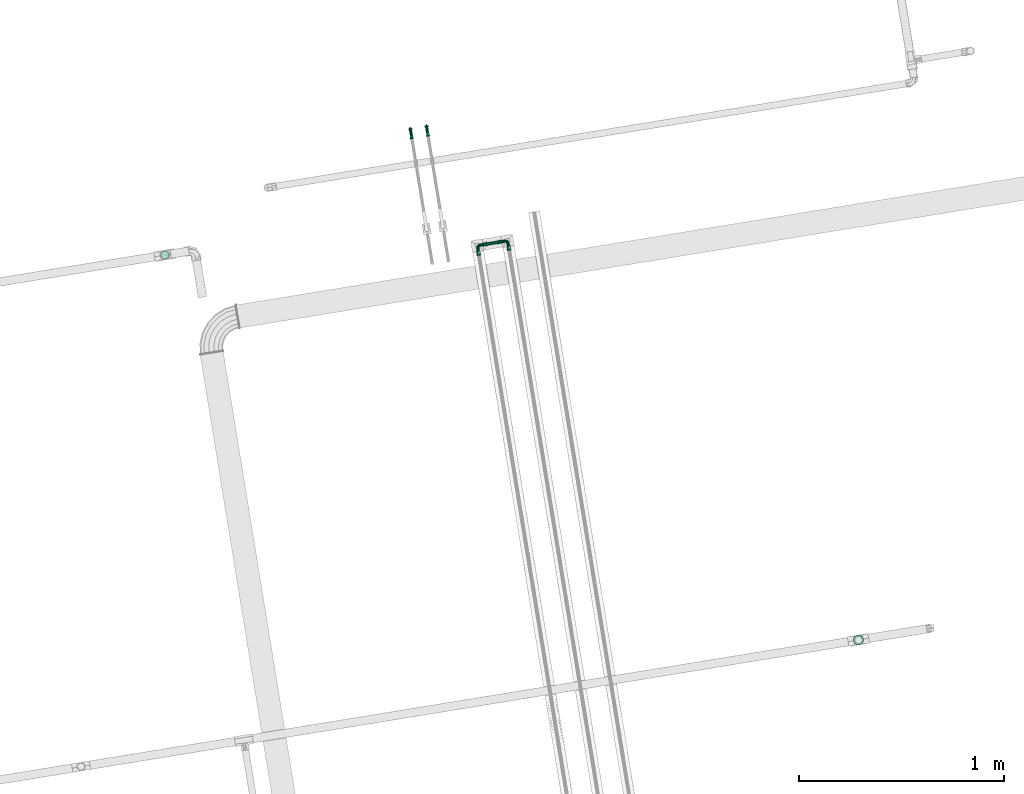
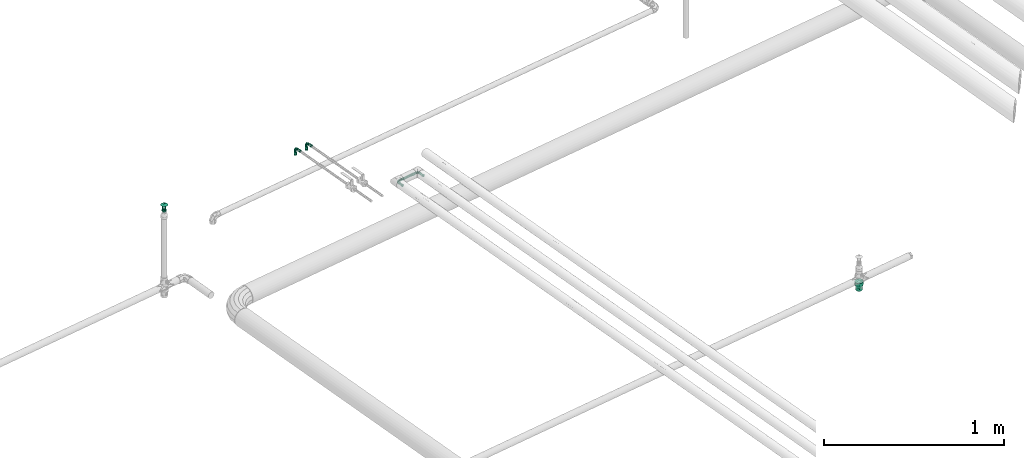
# One storey, part 38 of 46: 5 flow fittings, 1 flow segment, 1 flow terminal.
"""IFC2X3 building model written with IfcOpenShell, lengths in millimetres."""

import ifcopenshell
import ifcopenshell.guid

model = None  # the IFC model being written
_history = None  # IfcOwnerHistory: only IFC2X3 demands one
_inside = {}  # id of a spatial element -> (the spatial element, [elements in it])
_under = {}  # id of a project, library or spatial element -> (it, [spatial elements below it])
_declared = {}  # id of a project -> (the project, [libraries it declares])
_typed = {}  # id of a type object -> (the type object, [elements of that type])
_made_of = {}  # id of a material, layer set ... -> (it, [elements and type objects made of it])


def new_model(schema):
    """Start an empty IFC model of exactly this schema.

    Asked for "IFC4X3", IfcOpenShell would pick the latest addendum, in which some entities
    have other attributes; the version numbers below select the first issue.
    IFC2X3 requires an IfcOwnerHistory on every rooted entity: one is made here for all.
    """
    global model, _history
    if schema == "IFC4X3":
        model = ifcopenshell.file(schema_version=(4, 3, 0, 0))
    else:
        model = ifcopenshell.file(schema=schema)
    _inside.clear()
    _under.clear()
    _declared.clear()
    _typed.clear()
    _made_of.clear()
    _history = None
    if model.schema == "IFC2X3":
        org = make("IfcOrganization", Name="unknown")
        user = make(
            "IfcPersonAndOrganization",
            ThePerson=make("IfcPerson", FamilyName="unknown"),
            TheOrganization=org,
        )
        app = make(
            "IfcApplication",
            ApplicationDeveloper=org,
            Version="unknown",
            ApplicationFullName="unknown",
            ApplicationIdentifier="unknown",
        )
        _history = make(
            "IfcOwnerHistory",
            OwningUser=user,
            OwningApplication=app,
            ChangeAction="ADDED",
            CreationDate=0,
        )
    return model


def make(cls, **values):
    """One entity of the class cls with the attributes given. An attribute that is None is left unset."""
    return model.create_entity(
        cls, **{name: value for name, value in values.items() if value is not None}
    )


def entity(cls, *values):
    """Any entity or typed value of the class cls, its attributes in the order of the schema. None: left unset."""
    e = model.create_entity(cls)
    for i, value in enumerate(values):
        if value is not None:
            e[i] = value
    return e


def rooted(cls, **values):
    """An entity with a GlobalId (a new one), such as an element, a storey or a relation."""
    return make(cls, GlobalId=ifcopenshell.guid.new(), OwnerHistory=_history, **values)


def si_unit(unit_type, name, prefix=None):
    """IfcSIUnit, for example si_unit("LENGTHUNIT", "METRE", prefix="MILLI")."""
    return make("IfcSIUnit", UnitType=unit_type, Prefix=prefix, Name=name)


def converted_unit(unit_type, name, factor, base, dimensions=None, offset=None):
    """IfcConversionBasedUnit, such as the inch: factor (a typed value) times the base unit."""
    return make(
        "IfcConversionBasedUnit"
        if offset is None
        else "IfcConversionBasedUnitWithOffset",
        ConversionOffset=offset,
        Dimensions=None
        if dimensions is None
        else entity("IfcDimensionalExponents", *dimensions),
        UnitType=unit_type,
        Name=name,
        ConversionFactor=make(
            "IfcMeasureWithUnit", ValueComponent=factor, UnitComponent=base
        ),
    )


def derived_unit(unit_type, elements):
    """IfcDerivedUnit: a product of units, each with its exponent."""
    return make(
        "IfcDerivedUnit",
        Elements=[
            make("IfcDerivedUnitElement", Unit=unit, Exponent=power)
            for unit, power in elements
        ],
        UnitType=unit_type,
    )


def assignment(units):
    """IfcUnitAssignment: the units of a project."""
    return None if units is None else make("IfcUnitAssignment", Units=units)


def point(xyz):
    """IfcCartesianPoint."""
    return None if xyz is None else make("IfcCartesianPoint", Coordinates=xyz)


def direction(xyz):
    """IfcDirection."""
    return None if xyz is None else make("IfcDirection", DirectionRatios=xyz)


def frame(location, z_axis=None, x_axis=None):
    """IfcAxis2Placement3D, a coordinate frame: its origin and axes. An axis left out is left unset."""
    return make(
        "IfcAxis2Placement3D",
        Location=point(location),
        Axis=direction(z_axis),
        RefDirection=direction(x_axis),
    )


def frame_2d(location, x_axis=None):
    """IfcAxis2Placement2D, a coordinate frame in the plane: its origin and x axis."""
    return make(
        "IfcAxis2Placement2D", Location=point(location), RefDirection=direction(x_axis)
    )


def origin():
    """The frame at (0, 0, 0) with its axes left unset."""
    return frame((0.0, 0.0, 0.0))


def origin_with_axes():
    """The frame at (0, 0, 0) with the z axis (0, 0, 1) and the x axis (1, 0, 0) written out."""
    return frame((0.0, 0.0, 0.0), z_axis=(0.0, 0.0, 1.0), x_axis=(1.0, 0.0, 0.0))


def place(relative_to, where):
    """IfcLocalPlacement: puts the frame where relative to a parent placement (None: the world)."""
    return make(
        "IfcLocalPlacement", PlacementRelTo=relative_to, RelativePlacement=where
    )


def context(
    kind, dimensions, precision=None, world=None, true_north=None, identifier=None
):
    """IfcGeometricRepresentationContext, for example the 3D "Model" context."""
    return make(
        "IfcGeometricRepresentationContext",
        ContextIdentifier=identifier,
        ContextType=kind,
        CoordinateSpaceDimension=dimensions,
        Precision=precision,
        WorldCoordinateSystem=world,
        TrueNorth=true_north,
    )


def subcontext(parent, identifier, kind, view, scale=None):
    """IfcGeometricRepresentationSubContext, for example "Body" below "Model"."""
    return make(
        "IfcGeometricRepresentationSubContext",
        ContextIdentifier=identifier,
        ContextType=kind,
        ParentContext=parent,
        TargetScale=scale,
        TargetView=view,
    )


def project(units=None, contexts=None):
    """IfcProject with its units and contexts."""
    return rooted(
        "IfcProject",
        Name="project",
        RepresentationContexts=contexts,
        UnitsInContext=assignment(units),
    )


def spatial(cls, under=None, at=None, **own):
    """A site, building, storey or space (cls), placed at a placement, below another one or the project."""
    s = rooted(cls, ObjectPlacement=at, **own)
    if under is not None:
        _under.setdefault(under.id(), (under, []))[1].append(s)
    return s


def profile(cls, at=None, kind="AREA", **sizes):
    """A parametric profile (cls). Its sizes go by their IFC names, for example OverallWidth=200.0."""
    return make(cls, ProfileType=kind, Position=at, **sizes)


def circle(**sizes):
    """IfcCircleProfileDef."""
    return profile("IfcCircleProfileDef", **sizes)


def extrude(swept, where, along, depth):
    """IfcExtrudedAreaSolid: the profile swept, set in the frame where, extruded along a direction by depth."""
    return make(
        "IfcExtrudedAreaSolid",
        SweptArea=swept,
        Position=where,
        ExtrudedDirection=direction(along),
        Depth=depth,
    )


def faces_of(points, faces, orient=None, outer=None):
    """IfcFace entities. A face is a list of loops; a loop is a list of indices into points, from 0.

    orient and outer hold one flag for each loop. By default every Orientation is true, the
    first loop of a face is its IfcFaceOuterBound and the others are IfcFaceBound.
    """
    made = []
    for i, loops in enumerate(faces):
        bounds = []
        for j, loop in enumerate(loops):
            is_outer = j == 0 if outer is None else outer[i][j]
            bounds.append(
                make(
                    "IfcFaceOuterBound" if is_outer else "IfcFaceBound",
                    Bound=make("IfcPolyLoop", Polygon=[points[k] for k in loop]),
                    Orientation=True if orient is None else orient[i][j],
                )
            )
        made.append(make("IfcFace", Bounds=bounds))
    return made


def faceted_brep(points, faces, orient=None, outer=None, voids=None):
    """IfcFacetedBrep: a solid bounded by flat faces; with voids (closed shells), ...WithVoids."""
    shared = [point(p) for p in points]
    hull = make("IfcClosedShell", CfsFaces=faces_of(shared, faces, orient, outer))
    if voids is None:
        return make("IfcFacetedBrep", Outer=hull)
    return make(
        "IfcFacetedBrepWithVoids",
        Outer=hull,
        Voids=[
            make(cls, CfsFaces=faces_of(shared, fs, o, b)) for cls, fs, o, b in voids
        ],
    )


def shape(context_of_items, identifier, shape_type, items):
    """IfcShapeRepresentation: the items that make up one representation, for example the "Body"."""
    return make(
        "IfcShapeRepresentation",
        ContextOfItems=context_of_items,
        RepresentationIdentifier=identifier,
        RepresentationType=shape_type,
        Items=items,
    )


def source(mapping_origin, context_of_items, identifier, shape_type, items):
    """IfcRepresentationMap: a shape defined once, which mapped items show again and again."""
    return make(
        "IfcRepresentationMap",
        MappingOrigin=mapping_origin,
        MappedRepresentation=shape(context_of_items, identifier, shape_type, items),
    )


def transform(
    local_origin,
    x_axis=None,
    y_axis=None,
    z_axis=None,
    scale=None,
    scale2=None,
    scale3=None,
    uniform=True,
):
    """IfcCartesianTransformationOperator3D, or its non-uniform kind. x_axis, y_axis, z_axis: its Axis1, 2, 3."""
    if uniform:
        return make(
            "IfcCartesianTransformationOperator3D",
            Axis1=direction(x_axis),
            Axis2=direction(y_axis),
            LocalOrigin=point(local_origin),
            Scale=scale,
            Axis3=direction(z_axis),
        )
    return make(
        "IfcCartesianTransformationOperator3DnonUniform",
        Axis1=direction(x_axis),
        Axis2=direction(y_axis),
        LocalOrigin=point(local_origin),
        Scale=scale,
        Axis3=direction(z_axis),
        Scale2=scale2,
        Scale3=scale3,
    )


def mapped(mapping_source, mapping_target):
    """IfcMappedItem: shows the shape of a source again, moved by a transform."""
    return make(
        "IfcMappedItem", MappingSource=mapping_source, MappingTarget=mapping_target
    )


def material(Name=None, Category=None):
    """IfcMaterial."""
    return make("IfcMaterial", Name=Name, Category=Category)


def material_list(materials):
    """IfcMaterialList."""
    return make("IfcMaterialList", Materials=materials)


def made_of(thing, what):
    """Note that an element or type object is made of a material, layer set ...; save() writes the relation."""
    if what is not None:
        _made_of.setdefault(what.id(), (what, []))[1].append(thing)
    return thing


def type_object(cls, material=None, **own):
    """A type object (cls), such as IfcWallType, which elements share."""
    return made_of(rooted(cls, **own), material)


def element(
    cls,
    number,
    at=None,
    inside=None,
    cuts=None,
    type_object=None,
    material=None,
    context=None,
    identifier="Body",
    shape_type=None,
    held_by="IfcProductDefinitionShape",
    body=None,
    shapes=None,
    **own,
):
    """One element of the class cls, such as IfcWall. Its Tag is "e" and its number.

    at: its placement. inside: the storey or other place that contains it. cuts: it is an
    opening in that element (IfcRelVoidsElement). A single representation is given by context,
    identifier, shape_type and body (its items); several are given by shapes. held_by: the class
    of the entity that holds the representations. save() writes the other relations.
    """
    e = rooted(cls, Tag="e%d" % number, ObjectPlacement=at, **own)
    if body is not None:
        shapes = [shape(context, identifier, shape_type, body)]
    if shapes is not None:
        e.Representation = make(held_by, Representations=shapes)
    if inside is not None:
        _inside.setdefault(inside.id(), (inside, []))[1].append(e)
    if cuts is not None:
        rooted(
            "IfcRelVoidsElement", RelatingBuildingElement=cuts, RelatedOpeningElement=e
        )
    if type_object is not None:
        _typed.setdefault(type_object.id(), (type_object, []))[1].append(e)
    return made_of(e, material)


def aggregate(whole, parts):
    """IfcRelAggregates: a whole, such as a stair, and the parts it consists of."""
    return rooted("IfcRelAggregates", RelatingObject=whole, RelatedObjects=parts)


def save(model, path):
    """Write the relations noted so far, then the file.

    IfcRelAggregates (storeys below a building ...), IfcRelContainedInSpatialStructure (elements
    in a storey), IfcRelDefinesByType, IfcRelAssociatesMaterial and IfcRelDeclares: one each for
    every whole, place, type object, material and project.
    """
    for whole, parts in _under.values():
        aggregate(whole, parts)
    for where, things in _inside.values():
        rooted(
            "IfcRelContainedInSpatialStructure",
            RelatedElements=things,
            RelatingStructure=where,
        )
    for kind, things in _typed.values():
        rooted("IfcRelDefinesByType", RelatedObjects=things, RelatingType=kind)
    for what, things in _made_of.values():
        rooted("IfcRelAssociatesMaterial", RelatedObjects=things, RelatingMaterial=what)
    for by, libraries in _declared.values():
        rooted("IfcRelDeclares", RelatingContext=by, RelatedDefinitions=libraries)
    model.write(path)


model = new_model("IFC2X3")

# Units and contexts
model_context = context("Model", 3, precision=0.01, world=origin(), true_north=direction((6.12323399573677e-17, 1.0)))
plan_context = context("Plan", 3, precision=1e-05, world=origin_with_axes())
body_context = subcontext(model_context, "Body", "Model", "MODEL_VIEW")
ifc_project = project(units=[converted_unit("PLANEANGLEUNIT", "DEGREE", entity("IfcPositiveLengthMeasure", 0.0174532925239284), si_unit("PLANEANGLEUNIT", "RADIAN"), dimensions=[0, 0, 0, 0, 0, 0, 0]), si_unit("AREAUNIT", "SQUARE_METRE"), si_unit("LENGTHUNIT", "METRE", prefix="MILLI"), si_unit("MASSUNIT", "GRAM", prefix="KILO"), si_unit("POWERUNIT", "WATT"), si_unit("PRESSUREUNIT", "PASCAL", prefix="KILO"), si_unit("FORCEUNIT", "NEWTON", prefix="KILO"), si_unit("ELECTRICVOLTAGEUNIT", "VOLT"), si_unit("ELECTRICCURRENTUNIT", "AMPERE"), si_unit("THERMODYNAMICTEMPERATUREUNIT", "DEGREE_CELSIUS"), si_unit("TIMEUNIT", "SECOND"), si_unit("VOLUMEUNIT", "CUBIC_METRE"), derived_unit("LINEARVELOCITYUNIT", [(si_unit("LENGTHUNIT", "METRE"), 1), (si_unit("TIMEUNIT", "SECOND"), -1)]), derived_unit("VOLUMETRICFLOWRATEUNIT", [(si_unit("VOLUMEUNIT", "CUBIC_METRE"), 1), (si_unit("TIMEUNIT", "SECOND"), -1)]), derived_unit("THERMALTRANSMITTANCEUNIT", [(si_unit("POWERUNIT", "WATT"), 1), (si_unit("THERMODYNAMICTEMPERATUREUNIT", "KELVIN"), -1), (si_unit("AREAUNIT", "SQUARE_METRE"), -1)]), derived_unit("SOUNDPRESSUREUNIT", [(si_unit("PRESSUREUNIT", "PASCAL"), 1)])], contexts=[model_context, plan_context])

# Site, building, storey
site_placement = place(None, frame((-3.09682673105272e-06, 1.93776733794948e-05, 0.0), z_axis=(0.0, 0.0, 1.0), x_axis=(-0.160806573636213, 0.986985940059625, 0.0)))
site = spatial("IfcSite", under=ifc_project, at=site_placement, Name="Default", CompositionType="ELEMENT")
building_placement = place(site_placement, frame((0.0, 0.0, 0.0), z_axis=(0.0, 0.0, 1.0), x_axis=(1.0, -2.77555756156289e-17, 0.0)))
building = spatial("IfcBuilding", under=site, at=building_placement, Name="Bygning (endres i Project Information)", CompositionType="ELEMENT")
storey_placement = place(building_placement, frame((0.0, 0.0, 51360.0000000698), z_axis=(0.0, 0.0, 1.0), x_axis=(1.0, -2.77555756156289e-17, 0.0)))
storey = spatial("IfcBuildingStorey", under=building, at=storey_placement, Name="H01-Nivå D+0,36", CompositionType="ELEMENT", Elevation=51360.0000000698)

# Flow fittings
ifc_material_1 = material(Name="3320.001")
pipe_fitting_type_1 = type_object("IfcPipeFittingType", Name="RS_53_PIF_UN_Reducing-Socket-EN10241_MC_gen:RS_53_PIF_UN_Reducing-Socket-EN10241_MC_gen", PredefinedType="NOTDEFINED", material=ifc_material_1)
shared_shape_1 = source(origin(), body_context, "Body", "Brep", [
    faceted_brep([(0.0, -12.25, 21.2176223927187), (0.0, -6.34106660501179, 23.6651827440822), (0.0, 0.0, 24.5), (0.0, 6.34106660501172, 23.6651827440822), (0.0, 12.25, 21.2176223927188), (0.0, 17.3241161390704, 17.3241161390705), (0.0, 21.2176223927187, 12.2500000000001), (0.0, 23.6651827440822, 6.34106660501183), (0.0, 24.5, 0.0), (0.0, 23.6651827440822, -6.34106660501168), (0.0, 21.2176223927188, -12.2499999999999), (0.0, 17.3241161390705, -17.3241161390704), (0.0, 12.2500000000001, -21.2176223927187), (0.0, 6.34106660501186, -23.6651827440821), (0.0, 0.0, -24.5), (0.0, -6.34106660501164, -23.6651827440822), (0.0, -12.2499999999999, -21.2176223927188), (0.0, -17.3241161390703, -17.3241161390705), (0.0, -21.2176223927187, -12.2500000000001), (0.0, -23.6651827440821, -6.34106660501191), (0.0, -24.5, 0.0), (0.0, -23.6651827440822, 6.34106660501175), (0.0, -21.2176223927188, 12.25), (0.0, -17.3241161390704, 17.3241161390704), (18.6666666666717, 8.25137606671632, -22.6729794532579), (18.6666666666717, 18.7677686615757, -15.7486780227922), (18.6666666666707, 20.8950763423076, -12.0642027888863), (18.6666666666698, 23.0223840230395, -8.37972755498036), (18.6666666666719, 15.5085607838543, -18.4833370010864), (18.6666666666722, 12.2493529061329, -21.2179959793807), (18.6666666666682, 23.7611920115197, -4.18986377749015), (18.6666666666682, 23.7125607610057, -4.46565710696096), (18.6666666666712, 4.25339922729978, -24.1279629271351), (18.6666666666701, -0.00110376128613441, -24.1277682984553), (18.6666666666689, -4.25560674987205, -24.1275736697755), (18.6666666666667, 24.5, 0.0), (18.6666666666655, -12.2512941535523, -21.2168751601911), (18.6666666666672, -8.25345045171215, -22.6722244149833), (18.6666666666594, -20.8961800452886, -12.062290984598), (18.6666666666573, -23.0231506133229, -8.37762113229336), (18.6666666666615, -18.7692094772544, -15.7469608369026), (18.6666666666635, -15.5102518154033, -18.4819179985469), (18.6666666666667, -24.5, 0.0), (18.6666666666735, -18.7692094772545, 15.7469608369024), (18.666666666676, -20.8961800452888, 12.0622909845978), (18.6666666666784, -23.023150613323, 8.3776211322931), (18.6666666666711, -15.5102518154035, 18.4819179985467), (18.6666666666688, -12.2512941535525, 21.216875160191), (18.6666666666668, -8.25345045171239, 22.6722244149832), (18.6666666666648, -4.25560674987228, 24.1275736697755), (18.6666666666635, -0.00110376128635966, 24.1277682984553), (18.6666666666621, 4.25339922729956, 24.1279629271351), (18.6666666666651, 23.7611920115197, 4.1898637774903), (18.666666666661, 12.2493529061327, 21.2179959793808), (18.6666666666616, 8.25137606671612, 22.672979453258), (18.6666666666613, 15.5085607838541, 18.4833370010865), (18.6666666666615, 18.7677686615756, 15.7486780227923), (18.6666666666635, 23.0223840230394, 8.37972755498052), (18.6666666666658, 23.7125607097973, 4.46565739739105), (18.6666666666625, 20.8950763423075, 12.0642027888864), (37.3333333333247, -18.5595959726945, -6.75306577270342), (37.3333333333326, -19.750000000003, 0.0), (37.3333333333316, -9.87626627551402, -17.1032705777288), (37.3333333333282, -15.1304742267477, -12.6937484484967), (37.3333333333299, -12.5033702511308, -14.8985095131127), (37.3333333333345, -3.43075149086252, -19.4497414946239), (37.333333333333, -6.65350888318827, -18.2765060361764), (37.3333333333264, -16.8450350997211, -9.72340711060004), (37.3333333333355, -0.00107998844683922, -19.4499319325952), (37.3333333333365, 3.42859151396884, -19.4501223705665), (37.3333333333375, 9.87436684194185, -17.1043672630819), (37.333333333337, 6.65147917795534, -18.2772448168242), (37.3333333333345, 19.1544229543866, -3.37756341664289), (37.3333333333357, 18.558845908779, -6.75512683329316), (37.3333333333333, 19.7499999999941, 0.0), (37.3333333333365, 16.8439551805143, -9.72527774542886), (37.3333333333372, 15.1290644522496, -12.6954286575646), (37.3333333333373, 12.5017156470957, -14.8998979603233), (37.3333333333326, 19.1544229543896, 3.37756341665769), (37.3333333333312, 18.5588459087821, 6.755126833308), (37.3333333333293, 15.1290644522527, 12.6954286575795), (37.3333333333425, -16.8450350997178, 9.72340711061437), (37.3333333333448, -18.559595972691, 6.75306577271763), (37.3333333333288, 9.87436684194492, 17.104367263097), (37.3333333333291, 12.5017156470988, 14.8998979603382), (37.3333333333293, 6.65147917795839, 18.2772448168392), (37.3333333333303, 16.8439551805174, 9.72527774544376), (37.3333333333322, -3.43075149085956, 19.4497414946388), (37.333333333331, -0.00107998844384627, 19.4499319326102), (37.3333333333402, -15.1304742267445, 12.6937484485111), (37.333333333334, -6.65350888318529, 18.2765060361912), (37.3333333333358, -9.87626627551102, 17.1032705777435), (37.333333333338, -12.5033702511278, 14.8985095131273), (37.3333333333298, 3.42859151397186, 19.4501223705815), (56.0, 0.0, -19.75), (56.0, 5.11167614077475, -19.0770350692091), (56.0, 9.87499999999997, -17.1040017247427), (56.0, 13.9653589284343, -13.9653589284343), (56.0, 17.1040017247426, -9.87500000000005), (56.0, 19.0770350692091, -5.11167614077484), (56.0, 19.75, 0.0), (56.0, 19.0770350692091, 5.11167614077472), (56.0, 17.1040017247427, 9.87499999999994), (56.0, 13.9653589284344, 13.9653589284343), (56.0, 9.87500000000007, 17.1040017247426), (56.0, 5.11167614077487, 19.0770350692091), (56.0, 0.0, 19.75), (56.0, -5.11167614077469, 19.0770350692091), (56.0, -9.87499999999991, 17.1040017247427), (56.0, -13.9653589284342, 13.9653589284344), (56.0, -17.1040017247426, 9.8750000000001), (56.0, -19.0770350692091, 5.1116761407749), (56.0, -19.75, 0.0), (56.0, -19.0770350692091, -5.11167614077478), (56.0, -17.1040017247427, -9.87499999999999), (56.0, -13.9653589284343, -13.9653589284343), (56.0, -9.87500000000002, -17.1040017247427), (56.0, -5.11167614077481, -19.0770350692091)], [[[0, 1, 2, 3, 4, 5, 6, 7, 8, 9, 10, 11, 12, 13, 14, 15, 16, 17, 18, 19, 20, 21, 22, 23]], [[13, 12, 24]], [[25, 11, 10]], [[26, 25, 10, 27]], [[12, 28, 29]], [[9, 30, 31, 27]], [[9, 8, 30]], [[9, 27, 10]], [[24, 32, 13]], [[28, 11, 25]], [[33, 34, 14, 32]], [[12, 29, 24]], [[11, 28, 12]], [[8, 35, 30]], [[15, 14, 34]], [[36, 16, 37]], [[38, 39, 18, 40]], [[15, 37, 16]], [[39, 19, 18]], [[41, 40, 17]], [[37, 15, 34]], [[17, 40, 18]], [[16, 36, 41]], [[39, 42, 19]], [[42, 20, 19]], [[13, 32, 14]], [[17, 16, 41]], [[21, 20, 42]], [[43, 23, 22]], [[44, 43, 22, 45]], [[0, 46, 47]], [[21, 42, 45]], [[48, 49, 1]], [[46, 23, 43]], [[50, 51, 2, 49]], [[23, 46, 0]], [[3, 2, 51]], [[1, 49, 2]], [[7, 52, 8]], [[53, 4, 54]], [[1, 0, 48]], [[5, 4, 55]], [[8, 52, 35]], [[21, 45, 22]], [[3, 54, 4]], [[55, 56, 5]], [[54, 3, 51]], [[0, 47, 48]], [[5, 56, 6]], [[7, 6, 57]], [[7, 57, 58, 52]], [[4, 53, 55]], [[6, 56, 59, 57]], [[60, 61, 42]], [[36, 62, 41]], [[63, 40, 64]], [[63, 38, 40]], [[65, 37, 34]], [[66, 37, 65]], [[60, 42, 39]], [[67, 38, 63]], [[64, 40, 41]], [[66, 36, 37]], [[64, 41, 62]], [[38, 67, 39]], [[68, 33, 69]], [[33, 32, 69]], [[29, 70, 24]], [[71, 69, 32]], [[72, 31, 30, 35]], [[26, 27, 73]], [[35, 74, 72]], [[73, 75, 26]], [[28, 25, 76]], [[76, 77, 28]], [[71, 24, 70]], [[71, 32, 24]], [[29, 77, 70]], [[25, 75, 76]], [[28, 77, 29]], [[26, 75, 25]], [[27, 31, 73]], [[72, 73, 31]], [[62, 36, 66]], [[34, 33, 68]], [[65, 34, 68]], [[60, 39, 67]], [[78, 58, 79]], [[56, 55, 80]], [[81, 45, 82]], [[57, 59, 79]], [[53, 54, 83]], [[84, 80, 55]], [[78, 35, 52, 58]], [[58, 57, 79]], [[55, 53, 84]], [[54, 51, 85]], [[74, 35, 78]], [[59, 56, 86]], [[53, 83, 84]], [[87, 88, 49]], [[87, 49, 48]], [[86, 79, 59]], [[85, 83, 54]], [[50, 49, 88]], [[42, 61, 82]], [[89, 43, 44]], [[48, 47, 90]], [[91, 47, 46]], [[56, 80, 86]], [[44, 45, 81]], [[90, 87, 48]], [[46, 43, 92]], [[90, 47, 91]], [[93, 51, 50]], [[82, 45, 42]], [[51, 93, 85]], [[81, 89, 44]], [[88, 93, 50]], [[92, 91, 46]], [[92, 43, 89]], [[94, 95, 96, 97, 98, 99, 100, 101, 102, 103, 104, 105, 106, 107, 108, 109, 110, 111, 112, 113, 114, 115, 116, 117]], [[113, 112, 61]], [[63, 115, 114]], [[67, 63, 114, 60]], [[116, 64, 62]], [[113, 61, 60]], [[66, 65, 117]], [[64, 115, 63]], [[68, 69, 94, 65]], [[115, 64, 116]], [[69, 95, 94]], [[96, 70, 77]], [[117, 116, 66]], [[71, 70, 96]], [[73, 99, 98]], [[95, 71, 96]], [[117, 65, 94]], [[113, 60, 114]], [[74, 100, 72]], [[95, 69, 71]], [[97, 76, 98]], [[77, 76, 97]], [[97, 96, 77]], [[75, 73, 98, 76]], [[99, 72, 100]], [[116, 62, 66]], [[99, 73, 72]], [[105, 104, 85]], [[80, 103, 102]], [[86, 80, 102, 79]], [[104, 84, 83]], [[78, 79, 101]], [[101, 100, 78]], [[101, 79, 102]], [[85, 93, 105]], [[84, 103, 80]], [[88, 87, 106, 93]], [[104, 83, 85]], [[103, 84, 104]], [[100, 74, 78]], [[107, 106, 87]], [[91, 108, 90]], [[81, 82, 110, 89]], [[107, 90, 108]], [[82, 111, 110]], [[92, 89, 109]], [[90, 107, 87]], [[109, 89, 110]], [[108, 91, 92]], [[82, 61, 111]], [[61, 112, 111]], [[105, 93, 106]], [[109, 108, 92]]]),
])
flow_fitting_placement = place(storey_placement, frame((1006288.36764383, -355017.329195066, 3289.06666666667), z_axis=(-1.0, 2.77555756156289e-17, 0.0), x_axis=(0.0, 0.0, -1.0)))
element("IfcFlowFitting", 1, at=flow_fitting_placement, inside=storey, type_object=pipe_fitting_type_1, material=ifc_material_1, Name="RS_53_PIF_UN_Reducing-Socket-EN10241_MC_gen:RS_53_PIF_UN_Reducing-Socket-EN10241_MC_gen", ObjectType="RS_53_PIF_UN_Reducing-Socket-EN10241_MC_gen:RS_53_PIF_UN_Reducing-Socket-EN10241_MC_gen", context=body_context, shape_type="MappedRepresentation", body=[
    mapped(shared_shape_1, transform((0.0, 0.0, 0.0), scale=1.0)),
])
ifc_material_2 = material(Name="Geberit_Plastic_Red")
ifc_material_3 = material(Name="Geberit_Mapress_C-Steel")
ifc_material_list = material_list([ifc_material_2, ifc_material_3])
pipe_fitting_type_2 = type_object("IfcPipeFittingType", Name="PRO_103184:DN10-100 / d12-108 - OD", PredefinedType="BEND", material=ifc_material_list)
shared_shape_2 = source(origin(), body_context, "Body", "Brep", [
    faceted_brep([(-8.70000000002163, 43.0, 0.0), (-4.35000000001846, 49.0, -7.53442101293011), (-8.70000000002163, 49.0, 0.0), (4.34999999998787, 43.0, -7.53442101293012), (8.69999999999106, 43.0, 0.0), (8.69999999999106, 49.0, 0.0), (4.34999999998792, 49.0, 7.53442101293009), (-4.35000000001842, 43.0, 7.53442101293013), (-6.38397128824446e-08, 47.5881763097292, -11.2451318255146), (0.0, 44.8218415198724, -11.4589749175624), (11.699999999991, 46.0, 0.0), (9.77736288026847, 44.0773628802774, 0.0), (-9.77736287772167, 44.0773628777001, 0.0), (-11.7000000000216, 46.0, 0.0), (-9.77736289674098, 47.9226371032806, 0.0), (9.77736288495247, 47.9226371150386, 0.0), (-4.85151050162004e-09, 44.8615218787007, 11.4755841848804)], [[[0, 1, 2]], [[3, 1, 0]], [[4, 5, 3]], [[1, 3, 5]], [[4, 6, 5]], [[7, 6, 4]], [[0, 2, 7]], [[6, 7, 2]], [[1, 8, 2]], [[9, 8, 10]], [[9, 10, 11, 4]], [[9, 0, 12, 13]], [[8, 13, 14, 2]], [[9, 13, 8]], [[5, 8, 1]], [[3, 9, 4]], [[8, 5, 15, 10]], [[0, 9, 3]], [[6, 2, 14]], [[16, 15, 14]], [[12, 16, 13]], [[11, 10, 16]], [[14, 15, 6]], [[7, 12, 0]], [[14, 13, 16]], [[7, 4, 11]], [[11, 16, 7]], [[15, 16, 10]], [[6, 15, 5]], [[16, 12, 7]]]),
    faceted_brep([(-7.50000000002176, 28.0, 0.0), (-3.7500000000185, 49.0, -6.49519052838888), (-7.50000000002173, 49.0, 0.0), (-1.87500000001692, 28.0, -3.24759526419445), (3.74999999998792, 28.0, -6.49519052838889), (7.49999999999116, 28.0, 0.0), (7.4999999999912, 49.0, 0.0), (3.74999999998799, 49.0, 6.49519052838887), (1.87499999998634, 28.0, 3.24759526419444), (-3.75000000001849, 28.0, 6.49519052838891), (8.6999999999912, 49.0, 0.0), (-4.35000000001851, 49.0, -7.53442101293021), (4.349999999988, 49.0, 7.5344210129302), (-8.70000000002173, 49.0, 0.0), (-4.35000000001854, 29.0, -7.53442101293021), (-8.70000000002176, 29.0, 0.0), (8.69999999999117, 29.0, 0.0), (2.17499999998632, 29.0, -3.76721050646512), (4.34999999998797, 29.0, 7.5344210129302), (-2.1750000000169, 29.0, 3.76721050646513)], [[[0, 1, 2]], [[1, 0, 3, 4]], [[5, 6, 4]], [[1, 4, 6]], [[5, 7, 6]], [[7, 5, 8, 9]], [[0, 2, 9]], [[7, 9, 2]], [[1, 6, 10]], [[11, 1, 10]], [[1, 11, 2]], [[6, 12, 10]], [[7, 12, 6]], [[2, 13, 7]], [[12, 7, 13]], [[13, 2, 11]], [[13, 11, 14, 15]], [[10, 16, 17, 14, 11]], [[10, 12, 18, 16]], [[13, 15, 19, 18, 12]], [[14, 3, 15]], [[3, 0, 15]], [[5, 4, 17]], [[3, 14, 4]], [[4, 14, 17]], [[16, 5, 17]], [[18, 8, 16]], [[8, 5, 16]], [[0, 9, 19]], [[8, 18, 9]], [[9, 18, 19]], [[15, 0, 19]]]),
    faceted_brep([(-43.0, -8.70000000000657, 0.0), (-49.0, -4.35000000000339, -7.53442101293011), (-49.0, -8.70000000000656, 0.0), (-43.0, 4.35000000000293, -7.53442101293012), (-43.0, 8.70000000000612, 0.0), (-49.0, 8.70000000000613, 0.0), (-49.0, 4.35000000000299, 7.53442101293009), (-43.0, -4.35000000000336, 7.53442101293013), (-47.5881763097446, -6.38246441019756e-08, -11.2451318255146), (-44.8218415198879, 0.0, -11.4589749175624), (-46.0, 11.7000000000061, 0.0), (-44.0773628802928, 9.77736288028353, 0.0), (-44.0773628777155, -9.77736287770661, 0.0), (-46.0, -11.7000000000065, 0.0), (-47.9226371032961, -9.77736289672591, 0.0), (-47.922637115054, 9.77736288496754, 0.0), (-44.8615218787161, -4.83644626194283e-09, 11.4755841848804)], [[[0, 1, 2]], [[3, 1, 0]], [[4, 5, 3]], [[1, 3, 5]], [[4, 6, 5]], [[7, 6, 4]], [[0, 2, 7]], [[6, 7, 2]], [[1, 8, 2]], [[9, 8, 10]], [[9, 10, 11, 4]], [[9, 0, 12, 13]], [[8, 13, 14, 2]], [[9, 13, 8]], [[5, 8, 1]], [[3, 9, 4]], [[8, 5, 15, 10]], [[0, 9, 3]], [[6, 2, 14]], [[16, 15, 14]], [[12, 16, 13]], [[11, 10, 16]], [[14, 15, 6]], [[7, 12, 0]], [[14, 13, 16]], [[7, 4, 11]], [[11, 16, 7]], [[15, 16, 10]], [[6, 15, 5]], [[16, 12, 7]]]),
    faceted_brep([(-28.0, -7.50000000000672, 0.0), (-49.0, -3.75000000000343, -6.49519052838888), (-49.0, -7.50000000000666, 0.0), (-28.0, -1.87500000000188, -3.24759526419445), (-28.0, 3.75000000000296, -6.49519052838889), (-28.0, 7.5000000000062, 0.0), (-49.0, 7.50000000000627, 0.0), (-49.0, 3.75000000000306, 6.49519052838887), (-28.0, 1.87500000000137, 3.24759526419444), (-28.0, -3.75000000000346, 6.49519052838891), (-49.0, 8.70000000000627, 0.0), (-49.0, -4.35000000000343, -7.53442101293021), (-49.0, 4.35000000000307, 7.5344210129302), (-49.0, -8.70000000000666, 0.0), (-29.0, -4.3500000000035, -7.53442101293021), (-29.0, -8.70000000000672, 0.0), (-29.0, 8.70000000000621, 0.0), (-29.0, 2.17500000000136, -3.76721050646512), (-29.0, 4.35000000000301, 7.5344210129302), (-29.0, -2.17500000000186, 3.76721050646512)], [[[0, 1, 2]], [[1, 0, 3, 4]], [[5, 6, 4]], [[1, 4, 6]], [[5, 7, 6]], [[7, 5, 8, 9]], [[0, 2, 9]], [[7, 9, 2]], [[1, 6, 10]], [[11, 1, 10]], [[1, 11, 2]], [[6, 12, 10]], [[7, 12, 6]], [[2, 13, 7]], [[12, 7, 13]], [[13, 2, 11]], [[13, 11, 14, 15]], [[10, 16, 17, 14, 11]], [[10, 12, 18, 16]], [[13, 15, 19, 18, 12]], [[14, 3, 15]], [[3, 0, 15]], [[5, 4, 17]], [[3, 14, 4]], [[4, 14, 17]], [[16, 5, 17]], [[18, 8, 16]], [[8, 5, 16]], [[0, 9, 19]], [[8, 18, 9]], [[9, 18, 19]], [[15, 0, 19]]]),
    faceted_brep([(-29.0, -6.49519052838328, -3.75000000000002), (-29.0, -7.5, 0.0), (-29.0, -6.49519052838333, 3.74999999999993), (-29.0, -1.94114283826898, 7.24444369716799), (-29.0, 1.94114283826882, 7.24444369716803), (-29.0, 6.49519052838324, 3.75000000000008), (-29.0, 7.5, 0.0), (-29.0, 6.49519052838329, -3.75), (-29.0, 1.94114283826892, -7.24444369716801), (-29.0, -1.94114283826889, -7.24444369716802), (-12.5000000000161, -7.5, 0.0), (-12.5000000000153, -6.49519052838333, 3.74999999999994), (-12.5000000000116, -1.94114283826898, 7.24444369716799), (-12.5000000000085, 1.94114283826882, 7.24444369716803), (1.94114283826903, 29.0, 7.24444369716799), (-1.94114283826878, 29.0, 7.24444369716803), (-1.94114283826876, 12.4999999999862, 7.24444369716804), (1.94114283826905, 12.4999999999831, 7.24444369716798), (-12.5000000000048, 6.49519052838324, 3.75000000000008), (-12.5000000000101, 7.5, 0.0), (-12.5000000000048, 6.49519052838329, -3.75), (-12.5000000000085, 1.94114283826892, -7.24444369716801), (-12.5000000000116, -1.94114283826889, -7.24444369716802), (-1.94114283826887, 29.0, -7.24444369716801), (1.94114283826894, 29.0, -7.24444369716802), (1.94114283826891, 12.4999999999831, -7.24444369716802), (-1.94114283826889, 12.4999999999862, -7.24444369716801), (-12.5000000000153, -6.49519052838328, -3.75000000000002), (-2.14016171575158, 2.14016146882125, 7.18492142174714), (1.64213562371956, -1.64213562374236, 0.0), (6.49519052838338, 12.4999999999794, 3.74999999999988), (-8.96446609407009, 8.96446609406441, 0.0), (-6.4951905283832, 12.4999999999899, 3.75000000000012), (7.50000000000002, 12.4999999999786, 0.0), (-7.49999999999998, 12.499999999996, 0.0), (-2.14016139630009, 2.14016102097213, -7.18492125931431), (-6.49519052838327, 12.4999999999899, -3.75), (6.4951905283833, 12.4999999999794, -3.75000000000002), (-6.49519052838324, 29.0, -3.75), (-7.49999999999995, 29.0, 0.0), (-6.4951905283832, 29.0, 3.75000000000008), (6.49519052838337, 29.0, 3.74999999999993), (7.50000000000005, 29.0, 0.0), (6.49519052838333, 29.0, -3.75000000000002)], [[[0, 1, 2, 3, 4, 5, 6, 7, 8, 9]], [[1, 10, 11, 2]], [[2, 11, 12, 3]], [[12, 13, 4, 3]], [[14, 15, 16, 17]], [[4, 13, 18, 5]], [[5, 18, 19, 6]], [[6, 19, 20, 7]], [[7, 20, 21, 8]], [[21, 22, 9, 8]], [[23, 24, 25, 26]], [[9, 22, 27, 0]], [[0, 27, 10, 1]], [[11, 28, 12]], [[28, 11, 29]], [[13, 12, 28]], [[30, 28, 29]], [[31, 18, 32]], [[31, 19, 18]], [[18, 13, 28]], [[11, 10, 29]], [[29, 33, 30]], [[30, 17, 28]], [[31, 32, 34]], [[28, 32, 18]], [[16, 32, 28]], [[17, 16, 28]], [[27, 35, 29]], [[20, 36, 35]], [[20, 35, 21]], [[10, 27, 29]], [[35, 27, 22]], [[35, 22, 21]], [[20, 19, 31]], [[31, 34, 36]], [[26, 35, 36]], [[29, 35, 37]], [[37, 35, 25]], [[29, 37, 33]], [[25, 35, 26]], [[36, 20, 31]], [[23, 38, 39, 40, 15, 14, 41, 42, 43, 24]], [[33, 42, 41, 30]], [[30, 41, 14, 17]], [[16, 15, 40, 32]], [[32, 40, 39, 34]], [[34, 39, 38, 36]], [[36, 38, 23, 26]], [[25, 24, 43, 37]], [[37, 43, 42, 33]]]),
])
for number, where, z_axis, x_axis in (
    (2, (1009100.36764294, -353340.062917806, 3449.99999993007), (-2.77555756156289e-17, -1.0, 0.0), (0.0, 0.0, 1.0)),
    (3, (1009100.36764294, -353260.062917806, 3449.99999993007), (-2.77555756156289e-17, -1.0, 0.0), (0.0, 0.0, 1.0)),
    (4, (1008487.09958778, -353641.080139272, 3450.0), (0.0, 0.0, 1.0), (1.0, -2.77555756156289e-17, 0.0)),
    (5, (1008487.09958779, -353491.080139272, 3450.0), (0.0, 0.0, 1.0), (2.77555756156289e-17, 1.0, 0.0)),
):
    element("IfcFlowFitting", number, at=place(storey_placement, frame(where, z_axis=z_axis, x_axis=x_axis)), inside=storey, type_object=pipe_fitting_type_2, material=ifc_material_list, Name="PRO_103184:DN10-100 / d12-108 - OD", ObjectType="PRO_103184:DN10-100 / d12-108 - OD", context=body_context, shape_type="MappedRepresentation", body=[
        mapped(shared_shape_2, transform((0.0, 0.0, 0.0), scale=1.0)),
    ])

# Flow terminal
fire_suppression_terminal_type = type_object("IfcFireSuppressionTerminalType", Name="SU-15-K80-68DGR-STD:SU-15-K80-68DGR-STD", PredefinedType="NOTDEFINED", material=ifc_material_1)
shared_shape_3 = source(origin(), body_context, "Body", "Brep", [
    faceted_brep([(-2.5, 0.0, 62.0), (0.0, -2.5, 62.0), (2.5, 0.0, 62.0), (0.0, 2.5, 62.0), (-2.5, 0.0, 59.0), (0.0, 2.5, 59.0), (2.5, 0.0, 59.0), (0.0, -2.5, 59.0)], [[[0, 1, 2, 3]], [[4, 5, 6, 7]], [[0, 4, 7, 1]], [[7, 6, 2, 1]], [[2, 6, 5, 3]], [[5, 4, 0, 3]]]),
    faceted_brep([(1.0, -13.5, 47.0), (1.0, -13.5, 19.0), (1.0, -8.5, 19.0), (1.0, -8.5, 42.0), (1.0, 8.5, 42.0), (1.0, 8.5, 19.0), (1.0, 13.5, 19.0), (1.0, 13.5, 47.0), (-1.0, -13.5, 47.0), (-1.0, 13.5, 47.0), (-1.0, 13.5, 19.0), (-1.0, 8.5, 19.0), (-1.0, 8.5, 42.0), (-1.0, -8.5, 42.0), (-1.0, -8.5, 19.0), (-1.0, -13.5, 19.0)], [[[0, 1, 2, 3, 4, 5, 6, 7]], [[8, 9, 10, 11, 12, 13, 14, 15]], [[1, 0, 8, 15]], [[2, 1, 15, 14]], [[3, 2, 14, 13]], [[4, 3, 13, 12]], [[5, 4, 12, 11]], [[6, 5, 11, 10]], [[7, 6, 10, 9]], [[0, 7, 9, 8]]]),
    faceted_brep([(-13.5, 1.0, 47.0), (13.5, 1.0, 47.0), (13.5, 1.0, 19.0), (8.5, 1.0, 19.0), (8.5, 1.0, 42.0), (-8.5, 1.0, 42.0), (-8.5, 1.0, 19.0), (-13.5, 1.0, 19.0), (-13.5, -1.0, 47.0), (-13.5, -1.0, 19.0), (-8.5, -1.0, 19.0), (-8.5, -1.0, 42.0), (8.5, -1.0, 42.0), (8.5, -1.0, 19.0), (13.5, -1.0, 19.0), (13.5, -1.0, 47.0)], [[[0, 1, 2, 3, 4, 5, 6, 7]], [[8, 9, 10, 11, 12, 13, 14, 15]], [[1, 0, 8, 15]], [[2, 1, 15, 14]], [[3, 2, 14, 13]], [[4, 3, 13, 12]], [[5, 4, 12, 11]], [[6, 5, 11, 10]], [[7, 6, 10, 9]], [[0, 7, 9, 8]]]),
    faceted_brep([(0.0, 2.5, 59.0), (-2.5, 0.0, 59.0), (0.0, -2.5, 59.0), (2.5, 0.0, 59.0), (6.4893568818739, 19.9721868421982, 53.0), (16.9893568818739, 12.3434902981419, 53.0), (21.0, 0.0, 53.0), (16.989356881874, -12.3434902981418, 53.0), (6.48935688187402, -19.9721868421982, 53.0), (-6.48935688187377, -19.9721868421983, 53.0), (-16.9893568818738, -12.343490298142, 53.0), (-21.0, 0.0, 53.0), (-16.9893568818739, 12.3434902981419, 53.0), (-6.48935688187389, 19.9721868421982, 53.0)], [[[0, 1, 2, 3]], [[4, 5, 6, 7, 8, 9, 10, 11, 12, 13]], [[6, 3, 7]], [[2, 8, 7]], [[7, 3, 2]], [[2, 1, 10]], [[2, 10, 9]], [[10, 1, 11]], [[2, 9, 8]], [[11, 1, 12]], [[0, 13, 12]], [[12, 1, 0]], [[0, 3, 5]], [[0, 5, 4]], [[5, 3, 6]], [[0, 4, 13]]]),
    faceted_brep([(-2.5, 0.0, 53.0), (0.0, -2.5, 53.0), (2.5, 0.0, 53.0), (0.0, 2.5, 53.0), (-2.5, 0.0, 19.0), (0.0, 2.5, 19.0), (2.5, 0.0, 19.0), (0.0, -2.5, 19.0)], [[[0, 1, 2, 3]], [[4, 5, 6, 7]], [[0, 4, 7, 1]], [[7, 6, 2, 1]], [[2, 6, 5, 3]], [[5, 4, 0, 3]]]),
    faceted_brep([(3.62346663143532, -13.5229615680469, 19.0), (7.0, -12.1243556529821, 19.0), (9.89949493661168, -9.89949493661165, 19.0), (12.1243556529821, -7.0, 19.0), (13.522961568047, -3.62346663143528, 19.0), (14.0, 0.0, 19.0), (13.522961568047, 3.62346663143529, 19.0), (12.1243556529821, 7.0, 19.0), (9.89949493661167, 9.89949493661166, 19.0), (7.0, 12.1243556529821, 19.0), (3.62346663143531, 13.522961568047, 19.0), (0.0, 14.0, 19.0), (-3.62346663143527, 13.522961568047, 19.0), (-7.0, 12.1243556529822, 19.0), (-9.89949493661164, 9.89949493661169, 19.0), (-12.1243556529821, 7.0, 19.0), (-13.5229615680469, 3.62346663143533, 19.0), (-14.0, 0.0, 19.0), (-13.5229615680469, -3.62346663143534, 19.0), (-12.1243556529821, -7.0, 19.0), (-9.89949493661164, -9.89949493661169, 19.0), (-7.0, -12.1243556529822, 19.0), (-3.62346663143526, -13.522961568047, 19.0), (0.0, -14.0, 19.0), (9.89949493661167, 9.89949493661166, 13.0), (12.1243556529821, 7.0, 13.0), (13.522961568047, 3.62346663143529, 13.0), (14.0, 0.0, 13.0), (13.522961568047, -3.62346663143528, 13.0), (12.1243556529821, -7.0, 13.0), (9.89949493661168, -9.89949493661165, 13.0), (7.0, -12.1243556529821, 13.0), (3.62346663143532, -13.5229615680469, 13.0), (0.0, -14.0, 13.0), (-3.62346663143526, -13.522961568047, 13.0), (-7.0, -12.1243556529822, 13.0), (-9.89949493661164, -9.89949493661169, 13.0), (-12.1243556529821, -7.0, 13.0), (-13.5229615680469, -3.62346663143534, 13.0), (-14.0, 0.0, 13.0), (-13.5229615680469, 3.62346663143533, 13.0), (-12.1243556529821, 7.0, 13.0), (-9.89949493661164, 9.89949493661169, 13.0), (-7.0, 12.1243556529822, 13.0), (-3.62346663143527, 13.522961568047, 13.0), (0.0, 14.0, 13.0), (3.62346663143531, 13.522961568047, 13.0), (7.0, 12.1243556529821, 13.0)], [[[0, 1, 2, 3, 4, 5, 6, 7, 8, 9, 10, 11, 12, 13, 14, 15, 16, 17, 18, 19, 20, 21, 22, 23]], [[24, 25, 26, 27, 28, 29, 30, 31, 32, 33, 34, 35, 36, 37, 38, 39, 40, 41, 42, 43, 44, 45, 46, 47]], [[38, 18, 17, 39]], [[37, 19, 18, 38]], [[21, 20, 36, 35]], [[37, 36, 20, 19]], [[22, 21, 35, 34]], [[23, 22, 34, 33]], [[32, 0, 23, 33]], [[31, 1, 0, 32]], [[3, 2, 30, 29]], [[31, 30, 2, 1]], [[4, 3, 29, 28]], [[5, 4, 28, 27]], [[26, 6, 5, 27]], [[25, 7, 6, 26]], [[9, 8, 24, 47]], [[25, 24, 8, 7]], [[10, 9, 47, 46]], [[11, 10, 46, 45]], [[44, 12, 11, 45]], [[43, 13, 12, 44]], [[15, 14, 42, 41]], [[43, 42, 14, 13]], [[16, 15, 41, 40]], [[17, 16, 40, 39]]]),
    faceted_brep([(1.94114283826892, -7.24444369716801, 13.0), (3.75000000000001, -6.49519052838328, 13.0), (5.30330085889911, -5.3033008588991, 13.0), (6.49519052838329, -3.75, 13.0), (7.24444369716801, -1.9411428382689, 13.0), (7.5, 0.0, 13.0), (7.24444369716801, 1.9411428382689, 13.0), (6.49519052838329, 3.75, 13.0), (5.30330085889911, 5.3033008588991, 13.0), (3.75000000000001, 6.49519052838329, 13.0), (1.94114283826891, 7.24444369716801, 13.0), (0.0, 7.5, 13.0), (-1.94114283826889, 7.24444369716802, 13.0), (-3.74999999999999, 6.4951905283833, 13.0), (-5.3033008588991, 5.30330085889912, 13.0), (-6.49519052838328, 3.75000000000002, 13.0), (-7.24444369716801, 1.94114283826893, 13.0), (-7.5, 0.0, 13.0), (-7.244443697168, -1.94114283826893, 13.0), (-6.49519052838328, -3.75000000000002, 13.0), (-5.30330085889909, -5.30330085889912, 13.0), (-3.74999999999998, -6.4951905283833, 13.0), (-1.94114283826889, -7.24444369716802, 13.0), (0.0, -7.5, 13.0), (5.30330085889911, 5.3033008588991, 0.0), (6.49519052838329, 3.75, 0.0), (7.24444369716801, 1.9411428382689, 0.0), (7.5, 0.0, 0.0), (7.24444369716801, -1.9411428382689, 0.0), (6.49519052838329, -3.75, 0.0), (5.30330085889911, -5.3033008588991, 0.0), (3.75000000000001, -6.49519052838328, 0.0), (1.94114283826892, -7.24444369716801, 0.0), (0.0, -7.5, 0.0), (-1.94114283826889, -7.24444369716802, 0.0), (-3.74999999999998, -6.4951905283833, 0.0), (-5.30330085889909, -5.30330085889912, 0.0), (-6.49519052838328, -3.75000000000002, 0.0), (-7.244443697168, -1.94114283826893, 0.0), (-7.5, 0.0, 0.0), (-7.24444369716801, 1.94114283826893, 0.0), (-6.49519052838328, 3.75000000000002, 0.0), (-5.3033008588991, 5.30330085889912, 0.0), (-3.74999999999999, 6.4951905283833, 0.0), (-1.94114283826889, 7.24444369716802, 0.0), (0.0, 7.5, 0.0), (1.94114283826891, 7.24444369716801, 0.0), (3.75000000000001, 6.49519052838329, 0.0)], [[[0, 1, 2, 3, 4, 5, 6, 7, 8, 9, 10, 11, 12, 13, 14, 15, 16, 17, 18, 19, 20, 21, 22, 23]], [[24, 25, 26, 27, 28, 29, 30, 31, 32, 33, 34, 35, 36, 37, 38, 39, 40, 41, 42, 43, 44, 45, 46, 47]], [[38, 18, 17, 39]], [[37, 19, 18, 38]], [[21, 20, 36, 35]], [[37, 36, 20, 19]], [[22, 21, 35, 34]], [[23, 22, 34, 33]], [[32, 0, 23, 33]], [[31, 1, 0, 32]], [[3, 2, 30, 29]], [[31, 30, 2, 1]], [[4, 3, 29, 28]], [[5, 4, 28, 27]], [[26, 6, 5, 27]], [[25, 7, 6, 26]], [[9, 8, 24, 47]], [[25, 24, 8, 7]], [[10, 9, 47, 46]], [[11, 10, 46, 45]], [[44, 12, 11, 45]], [[43, 13, 12, 44]], [[15, 14, 42, 41]], [[43, 42, 14, 13]], [[16, 15, 41, 40]], [[17, 16, 40, 39]]]),
])
flow_terminal_placement = place(storey_placement, frame((1008686.77221849, -351978.631006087, 3801.99999993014), z_axis=(0.0, 0.0, 1.0), x_axis=(1.0, -2.77555756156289e-17, 0.0)))
element("IfcFlowTerminal", 6, at=flow_terminal_placement, inside=storey, type_object=fire_suppression_terminal_type, material=ifc_material_1, Name="SU-15-K80-68DGR-STD:SU-15-K80-68DGR-STD", ObjectType="SU-15-K80-68DGR-STD:SU-15-K80-68DGR-STD", context=body_context, shape_type="MappedRepresentation", body=[
    mapped(shared_shape_3, transform((0.0, 0.0, 0.0), scale=1.0)),
])

# Flow segment
ifc_material_4 = material(Name="3200.003 Tur")
pipe_segment_type = type_object("IfcPipeSegmentType", Name="Pipe Types:Pressfittingssystem MM", PredefinedType="NOTDEFINED", material=ifc_material_4)
flow_segment_placement = place(storey_placement, frame((0.0, 0.0, 0.0), z_axis=(0.0, 0.0, 1.0), x_axis=(1.0, -2.77555756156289e-17, 0.0)))
element("IfcFlowSegment", 7, at=flow_segment_placement, inside=storey, type_object=pipe_segment_type, Name="Pipe Types:Pressfittingssystem MM", ObjectType="Pipe Types:Pressfittingssystem MM", context=body_context, shape_type="SweptSolid", body=[
    extrude(circle(Radius=7.5000000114, at=frame_2d((0.0, 8.66293703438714e-12), x_axis=(1.0, 0.0))), frame((1008487.09958779, -353612.080139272, 3450.0), z_axis=(0.0, 1.0, 0.0), x_axis=(1.0, 0.0, 0.0)), (0.0, 0.0, 1.0), 91.9999999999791),
])

save(model, "model.ifc")
